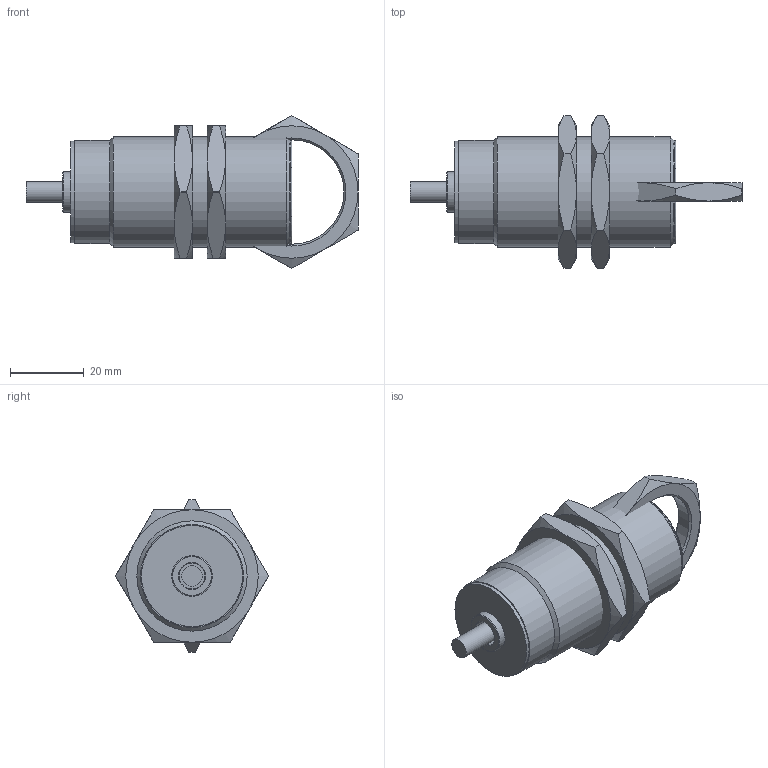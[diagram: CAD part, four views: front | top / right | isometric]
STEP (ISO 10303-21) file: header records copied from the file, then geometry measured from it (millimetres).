
FILE_DESCRIPTION( ( 'Unknown' ), '1' );
FILE_NAME( '//baumerholding.org/frauenfeld/bereich/BECH/Services/me_CAD/Solid Edge/Models/Dokumentationen/Induktiv/IxRx 30/Vereinfachte Modelle/Neutralformate/IWRM 30x950x.stp', 'Unknown', ( 'Unknown' ), ( 'Unknown' ), 'XStep 1.0', 'Unknown', ' ' );
FILE_SCHEMA( ( 'CONFIG_CONTROL_DESIGN' ) );
Length unit declared in the file: millimetre
Products named in the file (3): Assem1; IWRM 30x950x_oA; 101477
Bounding box: 90.25 x 41.56 x 41.56 mm (x, y, z)
Volume: 90446.6 mm3; surface area: 20194.2 mm2
Topology: 5 solids, 7 shells, 127 faces, 275 edges, 168 vertices
Faces by surface type: cone 48, plane 38, cylinder 35, torus 6
Full cylindrical faces by diameter (mm): 5.6 x2, 7 x2, 11 x2, 27.5 x2, 28 x4, 28.376 x3, 30 x2
Entity records: 1452 total; most frequent: CARTESIAN_POINT 362, DIRECTION 210, ORIENTED_EDGE 164, AXIS2_PLACEMENT_3D 99, EDGE_CURVE 82, EDGE_LOOP 70, FACE_OUTER_BOUND 60, VERTEX_POINT 59
